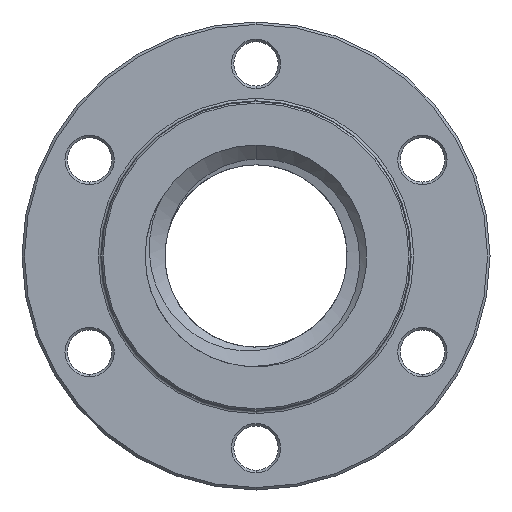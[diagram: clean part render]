
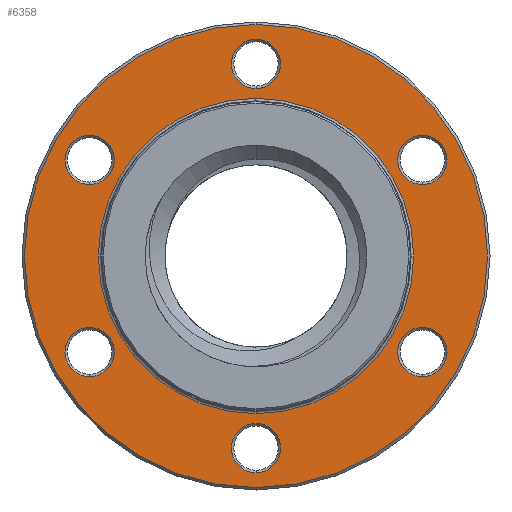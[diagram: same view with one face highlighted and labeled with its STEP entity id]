
A CAD part, left-side view. The second image highlights one B-rep face of the part: STEP entity #6358.
In plain terms, the highlighted planar face has unit normal (-1, 0, 0).
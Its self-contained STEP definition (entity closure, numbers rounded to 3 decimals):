
#2708=CARTESIAN_POINT('',(0.,0.,-39.));
#2709=DIRECTION('',(1.,0.,0.));
#2710=DIRECTION('',(0.,0.,1.));
#2711=AXIS2_PLACEMENT_3D('',#2708,#2709,#2710);
#2713=CARTESIAN_POINT('',(0.,0.,-39.));
#2714=DIRECTION('',(1.,0.,0.));
#2715=DIRECTION('',(0.,0.,-1.));
#2716=AXIS2_PLACEMENT_3D('',#2713,#2714,#2715);
#2718=CARTESIAN_POINT('',(0.,33.775,-19.5));
#2719=DIRECTION('',(1.,0.,0.));
#2720=DIRECTION('',(0.,0.,1.));
#2721=AXIS2_PLACEMENT_3D('',#2718,#2719,#2720);
#2723=CARTESIAN_POINT('',(0.,33.775,-19.5));
#2724=DIRECTION('',(1.,0.,0.));
#2725=DIRECTION('',(0.,0.,-1.));
#2726=AXIS2_PLACEMENT_3D('',#2723,#2724,#2725);
#2728=CARTESIAN_POINT('',(0.,33.775,19.5));
#2729=DIRECTION('',(1.,0.,0.));
#2730=DIRECTION('',(0.,0.,1.));
#2731=AXIS2_PLACEMENT_3D('',#2728,#2729,#2730);
#2733=CARTESIAN_POINT('',(0.,33.775,19.5));
#2734=DIRECTION('',(1.,0.,0.));
#2735=DIRECTION('',(0.,0.,-1.));
#2736=AXIS2_PLACEMENT_3D('',#2733,#2734,#2735);
#2738=CARTESIAN_POINT('',(0.,0.,39.));
#2739=DIRECTION('',(1.,0.,0.));
#2740=DIRECTION('',(0.,0.,1.));
#2741=AXIS2_PLACEMENT_3D('',#2738,#2739,#2740);
#2743=CARTESIAN_POINT('',(0.,0.,39.));
#2744=DIRECTION('',(1.,0.,0.));
#2745=DIRECTION('',(0.,0.,-1.));
#2746=AXIS2_PLACEMENT_3D('',#2743,#2744,#2745);
#2748=CARTESIAN_POINT('',(0.,-33.775,19.5));
#2749=DIRECTION('',(1.,0.,0.));
#2750=DIRECTION('',(0.,0.,1.));
#2751=AXIS2_PLACEMENT_3D('',#2748,#2749,#2750);
#2753=CARTESIAN_POINT('',(0.,-33.775,19.5));
#2754=DIRECTION('',(1.,0.,0.));
#2755=DIRECTION('',(0.,0.,-1.));
#2756=AXIS2_PLACEMENT_3D('',#2753,#2754,#2755);
#2758=CARTESIAN_POINT('',(0.,-33.775,-19.5));
#2759=DIRECTION('',(1.,0.,0.));
#2760=DIRECTION('',(0.,0.,1.));
#2761=AXIS2_PLACEMENT_3D('',#2758,#2759,#2760);
#2763=CARTESIAN_POINT('',(0.,-33.775,-19.5));
#2764=DIRECTION('',(1.,0.,0.));
#2765=DIRECTION('',(0.,0.,-1.));
#2766=AXIS2_PLACEMENT_3D('',#2763,#2764,#2765);
#2768=CARTESIAN_POINT('',(0.,0.,
0.));
#2769=DIRECTION('',(-1.,0.,0.));
#2770=DIRECTION('',(0.,0.,-1.));
#2771=AXIS2_PLACEMENT_3D('',#2768,#2769,#2770);
#2773=CARTESIAN_POINT('',(0.,0.,
0.));
#2774=DIRECTION('',(-1.,0.,0.));
#2775=DIRECTION('',(0.,0.,1.));
#2776=AXIS2_PLACEMENT_3D('',#2773,#2774,#2775);
#2778=CARTESIAN_POINT('',(0.,0.,0.));
#2779=DIRECTION('',(1.,0.,0.));
#2780=DIRECTION('',(0.,0.,1.));
#2781=AXIS2_PLACEMENT_3D('',#2778,#2779,#2780);
#2783=CARTESIAN_POINT('',(0.,0.,0.));
#2784=DIRECTION('',(1.,0.,0.));
#2785=DIRECTION('',(0.,0.,-1.));
#2786=AXIS2_PLACEMENT_3D('',#2783,#2784,#2785);
#3198=CARTESIAN_POINT('',(0.,0.,-34.));
#3199=CARTESIAN_POINT('',(0.,0.,-44.));
#3200=VERTEX_POINT('',#3198);
#3201=VERTEX_POINT('',#3199);
#3214=CARTESIAN_POINT('',(0.,33.775,
-14.5));
#3215=CARTESIAN_POINT('',(0.,33.775,
-24.5));
#3216=VERTEX_POINT('',#3214);
#3217=VERTEX_POINT('',#3215);
#3230=CARTESIAN_POINT('',(0.,33.775,24.5));
#3231=CARTESIAN_POINT('',(0.,33.775,14.5));
#3232=VERTEX_POINT('',#3230);
#3233=VERTEX_POINT('',#3231);
#3246=CARTESIAN_POINT('',(0.,0.,44.));
#3247=CARTESIAN_POINT('',(0.,0.,34.));
#3248=VERTEX_POINT('',#3246);
#3249=VERTEX_POINT('',#3247);
#3262=CARTESIAN_POINT('',(0.,-33.775,
24.5));
#3263=CARTESIAN_POINT('',(0.,-33.775,
14.5));
#3264=VERTEX_POINT('',#3262);
#3265=VERTEX_POINT('',#3263);
#3278=CARTESIAN_POINT('',(0.,-33.775,
-14.5));
#3279=CARTESIAN_POINT('',(0.,-33.775,
-24.5));
#3280=VERTEX_POINT('',#3278);
#3281=VERTEX_POINT('',#3279);
#3294=CARTESIAN_POINT('',(0.,0.,-47.));
#3295=CARTESIAN_POINT('',(0.,0.,47.));
#3296=VERTEX_POINT('',#3294);
#3297=VERTEX_POINT('',#3295);
#3310=CARTESIAN_POINT('',(0.,0.,32.));
#3311=CARTESIAN_POINT('',(0.,0.,-32.));
#3312=VERTEX_POINT('',#3310);
#3313=VERTEX_POINT('',#3311);
#6306=CARTESIAN_POINT('',(0.,0.,0.));
#6307=DIRECTION('',(1.,0.,0.));
#6308=DIRECTION('',(0.,0.,-1.));
#6309=AXIS2_PLACEMENT_3D('',#6306,#6307,#6308);
#6310=PLANE('',#6309);
#6312=ORIENTED_EDGE('',*,*,#6311,.F.);
#6314=ORIENTED_EDGE('',*,*,#6313,.F.);
#6315=EDGE_LOOP('',(#6312,#6314));
#6316=FACE_OUTER_BOUND('',#6315,.F.);
#6317=ORIENTED_EDGE('',*,*,#6296,.F.);
#6319=ORIENTED_EDGE('',*,*,#6318,.F.);
#6320=EDGE_LOOP('',(#6317,#6319));
#6321=FACE_BOUND('',#6320,.F.);
#6323=ORIENTED_EDGE('',*,*,#6322,.F.);
#6325=ORIENTED_EDGE('',*,*,#6324,.F.);
#6326=EDGE_LOOP('',(#6323,#6325));
#6327=FACE_BOUND('',#6326,.F.);
#6329=ORIENTED_EDGE('',*,*,#6328,.F.);
#6331=ORIENTED_EDGE('',*,*,#6330,.F.);
#6332=EDGE_LOOP('',(#6329,#6331));
#6333=FACE_BOUND('',#6332,.F.);
#6335=ORIENTED_EDGE('',*,*,#6334,.F.);
#6337=ORIENTED_EDGE('',*,*,#6336,.F.);
#6338=EDGE_LOOP('',(#6335,#6337));
#6339=FACE_BOUND('',#6338,.F.);
#6341=ORIENTED_EDGE('',*,*,#6340,.F.);
#6343=ORIENTED_EDGE('',*,*,#6342,.F.);
#6344=EDGE_LOOP('',(#6341,#6343));
#6345=FACE_BOUND('',#6344,.F.);
#6347=ORIENTED_EDGE('',*,*,#6346,.F.);
#6349=ORIENTED_EDGE('',*,*,#6348,.F.);
#6350=EDGE_LOOP('',(#6347,#6349));
#6351=FACE_BOUND('',#6350,.F.);
#6353=ORIENTED_EDGE('',*,*,#6352,.F.);
#6355=ORIENTED_EDGE('',*,*,#6354,.F.);
#6356=EDGE_LOOP('',(#6353,#6355));
#6357=FACE_BOUND('',#6356,.F.);
#6358=ADVANCED_FACE('',(#6316,#6321,#6327,#6333,#6339,#6345,#6351,#6357),#6310,
.F.);
#2712=CIRCLE('',#2711,5.);
#2717=CIRCLE('',#2716,5.);
#2722=CIRCLE('',#2721,5.);
#2727=CIRCLE('',#2726,5.);
#2732=CIRCLE('',#2731,5.);
#2737=CIRCLE('',#2736,5.);
#2742=CIRCLE('',#2741,5.);
#2747=CIRCLE('',#2746,5.);
#2752=CIRCLE('',#2751,5.);
#2757=CIRCLE('',#2756,5.);
#2762=CIRCLE('',#2761,5.);
#2767=CIRCLE('',#2766,5.);
#2772=CIRCLE('',#2771,47.);
#2777=CIRCLE('',#2776,47.);
#2782=CIRCLE('',#2781,32.);
#2787=CIRCLE('',#2786,32.);
#6296=EDGE_CURVE('',#3200,#3201,#2712,.T.);
#6311=EDGE_CURVE('',#3296,#3297,#2772,.T.);
#6313=EDGE_CURVE('',#3297,#3296,#2777,.T.);
#6318=EDGE_CURVE('',#3201,#3200,#2717,.T.);
#6322=EDGE_CURVE('',#3216,#3217,#2722,.T.);
#6324=EDGE_CURVE('',#3217,#3216,#2727,.T.);
#6328=EDGE_CURVE('',#3232,#3233,#2732,.T.);
#6330=EDGE_CURVE('',#3233,#3232,#2737,.T.);
#6334=EDGE_CURVE('',#3248,#3249,#2742,.T.);
#6336=EDGE_CURVE('',#3249,#3248,#2747,.T.);
#6340=EDGE_CURVE('',#3264,#3265,#2752,.T.);
#6342=EDGE_CURVE('',#3265,#3264,#2757,.T.);
#6346=EDGE_CURVE('',#3280,#3281,#2762,.T.);
#6348=EDGE_CURVE('',#3281,#3280,#2767,.T.);
#6352=EDGE_CURVE('',#3312,#3313,#2782,.T.);
#6354=EDGE_CURVE('',#3313,#3312,#2787,.T.);
